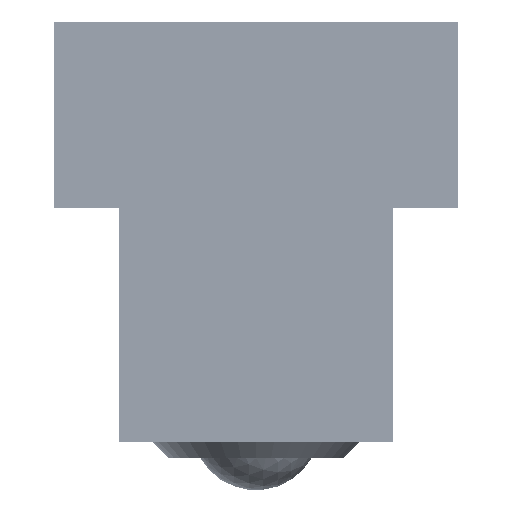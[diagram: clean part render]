
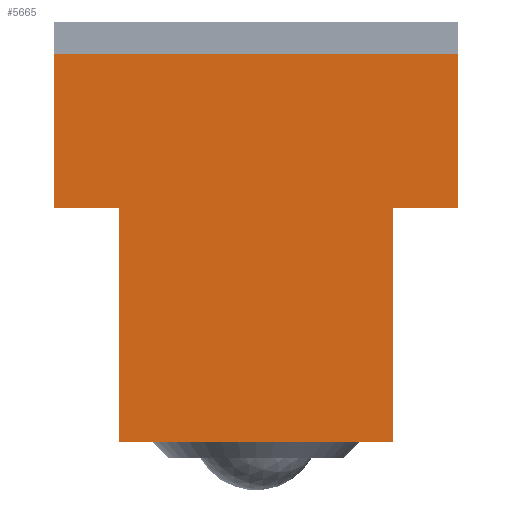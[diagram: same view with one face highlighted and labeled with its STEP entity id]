
A CAD part, left-side view. The second image highlights one B-rep face of the part: STEP entity #5665.
In plain terms, the highlighted planar face has unit normal (-1, 0, 0) as drawn and (0, 0, -1) by its records, which use the part's own axes.
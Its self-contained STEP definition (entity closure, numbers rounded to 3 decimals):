
#628=LINE('',#9076,#876);
#633=LINE('',#9086,#881);
#640=LINE('',#9112,#888);
#647=LINE('',#9126,#895);
#650=LINE('',#9130,#898);
#651=LINE('',#9132,#899);
#652=LINE('',#9135,#900);
#654=LINE('',#9138,#902);
#876=VECTOR('',#7329,14.5);
#881=VECTOR('',#7336,4.);
#888=VECTOR('',#7365,14.5);
#895=VECTOR('',#7376,9.5);
#898=VECTOR('',#7381,4.);
#899=VECTOR('',#7384,17.);
#900=VECTOR('',#7387,9.5);
#902=VECTOR('',#7391,25.);
#1120=PLANE('',#6194);
#1815=FACE_OUTER_BOUND('',#2382,.T.);
#2382=EDGE_LOOP('',(#4625,#4626,#4627,#4628,#4629,#4630,#4631,#4632));
#3212=VERTEX_POINT('',#9073);
#3213=VERTEX_POINT('',#9075);
#3216=VERTEX_POINT('',#9083);
#3217=VERTEX_POINT('',#9085);
#3225=VERTEX_POINT('',#9111);
#3229=VERTEX_POINT('',#9124);
#3230=VERTEX_POINT('',#9125);
#3231=VERTEX_POINT('',#9134);
#3734=EDGE_CURVE('',#3212,#3213,#628,.T.);
#3739=EDGE_CURVE('',#3216,#3217,#633,.T.);
#3750=EDGE_CURVE('',#3217,#3225,#640,.T.);
#3757=EDGE_CURVE('',#3229,#3230,#647,.T.);
#3760=EDGE_CURVE('',#3213,#3229,#650,.T.);
#3761=EDGE_CURVE('',#3225,#3212,#651,.T.);
#3762=EDGE_CURVE('',#3231,#3216,#652,.T.);
#3764=EDGE_CURVE('',#3230,#3231,#654,.T.);
#4625=ORIENTED_EDGE('',*,*,#3764,.F.);
#4626=ORIENTED_EDGE('',*,*,#3757,.F.);
#4627=ORIENTED_EDGE('',*,*,#3760,.F.);
#4628=ORIENTED_EDGE('',*,*,#3734,.F.);
#4629=ORIENTED_EDGE('',*,*,#3761,.F.);
#4630=ORIENTED_EDGE('',*,*,#3750,.F.);
#4631=ORIENTED_EDGE('',*,*,#3739,.F.);
#4632=ORIENTED_EDGE('',*,*,#3762,.F.);
#5665=ADVANCED_FACE('',(#1815),#1120,.F.);
#6194=AXIS2_PLACEMENT_3D('',#9139,#7392,#7393);
#7329=DIRECTION('',(0.,-1.,0.));
#7336=DIRECTION('',(-1.,0.,0.));
#7365=DIRECTION('',(0.,1.,0.));
#7376=DIRECTION('',(0.,-1.,0.));
#7381=DIRECTION('',(-1.,0.,0.));
#7384=DIRECTION('',(-1.,0.,0.));
#7387=DIRECTION('',(0.,1.,0.));
#7391=DIRECTION('',(1.,0.,0.));
#7392=DIRECTION('center_axis',(0.,0.,1.));
#7393=DIRECTION('ref_axis',(1.,0.,0.));
#9073=CARTESIAN_POINT('',(4.,24.,0.));
#9075=CARTESIAN_POINT('',(4.,9.5,0.));
#9076=CARTESIAN_POINT('',(4.,24.,0.));
#9083=CARTESIAN_POINT('',(25.,9.5,0.));
#9085=CARTESIAN_POINT('',(21.,9.5,0.));
#9086=CARTESIAN_POINT('',(25.,9.5,0.));
#9111=CARTESIAN_POINT('',(21.,24.,0.));
#9112=CARTESIAN_POINT('',(21.,9.5,0.));
#9124=CARTESIAN_POINT('',(0.,9.5,0.));
#9125=CARTESIAN_POINT('',(0.,0.,0.));
#9126=CARTESIAN_POINT('',(0.,9.5,0.));
#9130=CARTESIAN_POINT('',(4.,9.5,0.));
#9132=CARTESIAN_POINT('',(21.,24.,0.));
#9134=CARTESIAN_POINT('',(25.,0.,0.));
#9135=CARTESIAN_POINT('',(25.,0.,0.));
#9138=CARTESIAN_POINT('',(0.,0.,0.));
#9139=CARTESIAN_POINT('Origin',(12.5,10.816,0.));
